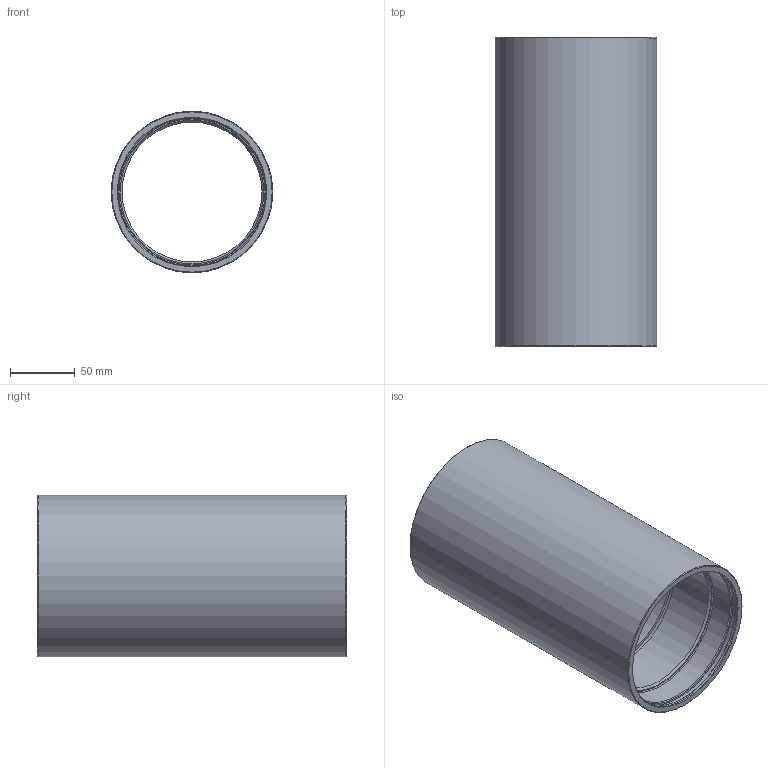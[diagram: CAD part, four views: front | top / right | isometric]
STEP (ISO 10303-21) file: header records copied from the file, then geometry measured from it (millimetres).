
FILE_DESCRIPTION(/* description */ ('RESERVOIR HOUSING, BUOYANCY ENGINE '),/* implementation_level */ '2;1');
FILE_NAME(/* name */ 'D:\MSL_Vault\Project_Library\Barreleye\Sea Fligt Robotics\Buoyancy Engine\STEP\BD-ASY-0359-0001_RevB.stp',/* time_stamp */ '2020-10-09T14:50:06-04:00',/* author */ ('Jeremy Paulus'),/* organization */ (''),/* preprocessor_version */ 'ST-DEVELOPER v15.2',/* originating_system */ 'Autodesk Inventor 2014',/* authorisation */ '');
FILE_SCHEMA (('AUTOMOTIVE_DESIGN { 1 0 10303 214 3 1 1 }'));
Length unit declared in the file: inch
Products named in the file (1): BD-ASY-0359-0001
Bounding box: 124.78 x 238.7 x 124.78 mm (x, y, z)
Volume: 663179.6 mm3; surface area: 184611.8 mm2
Topology: 1 solids, 1 shells, 32 faces, 54 edges, 32 vertices
Faces by surface type: cylinder 10, plane 10, cone 10, torus 2
Full cylindrical faces by diameter (mm): 107.95 x2, 112.23 x1, 114.3 x4, 118.58 x2, 124.777 x1
Entity records: 674 total; most frequent: DIRECTION 130, CARTESIAN_POINT 97, AXIS2_PLACEMENT_3D 65, EDGE_LOOP 64, ORIENTED_EDGE 64, FACE_BOUND 35, CIRCLE 32, VERTEX_POINT 32
